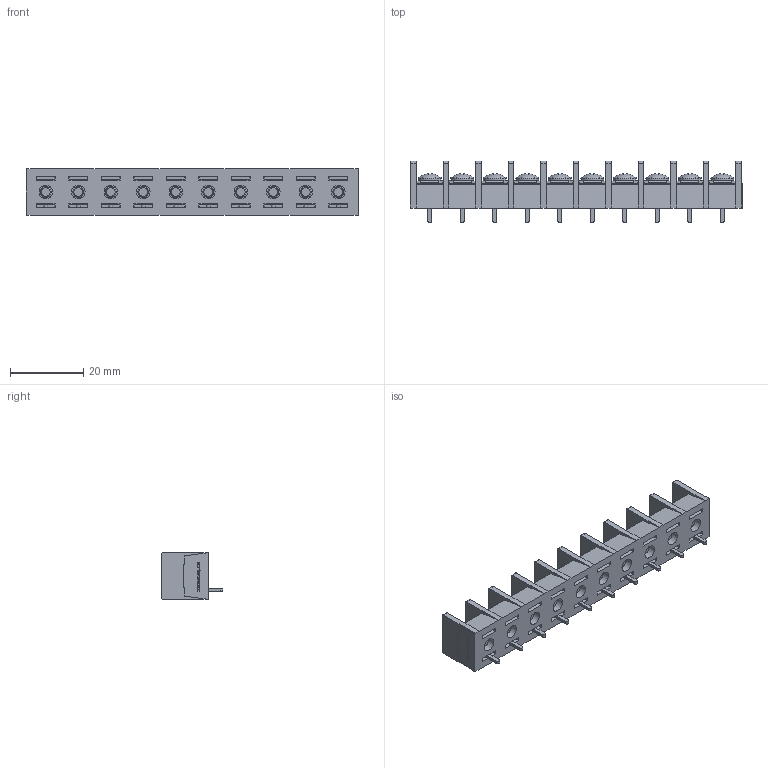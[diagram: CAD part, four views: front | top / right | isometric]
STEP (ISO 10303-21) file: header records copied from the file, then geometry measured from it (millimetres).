
FILE_DESCRIPTION(/* description */ ('Alibre Inc.'),/* implementation_level */ '2;1');
FILE_NAME(/* name */ 'export0',/* time_stamp */ '2015-10-20T08:17:10+09:00',/* author */ (''),/* organization */ (''),/* preprocessor_version */ 'ST-DEVELOPER v14',/* originating_system */ 'Alibre',/* authorisation */ '');
FILE_SCHEMA (('CONFIG_CONTROL_DESIGN'));
Length unit declared in the file: centimetre
Products named in the file (1): ID_1
Bounding box: 90.81 x 16.8 x 12.8 mm (x, y, z)
Volume: 8422.7 mm3; surface area: 10478.1 mm2
Topology: 1 solids, 171 shells, 3200 faces, 8210 edges, 5432 vertices
Faces by surface type: plane 2394, bspline 624, cylinder 102, cone 50, torus 20, sphere 10
Full cylindrical faces by diameter (mm): 3 x20, 3.7 x10, 4.6 x10, 6.3 x10
Entity records: 92311 total; most frequent: CARTESIAN_POINT 22327, ORIENTED_EDGE 16200, DIRECTION 9664, EDGE_CURVE 8100, VECTOR 6236, LINE 6236, VERTEX_POINT 5402, EDGE_LOOP 3500
